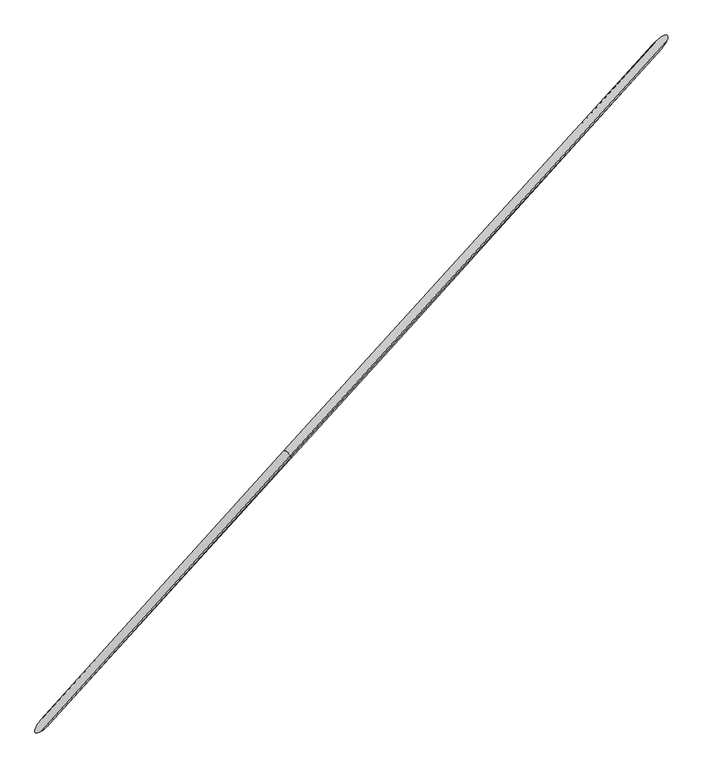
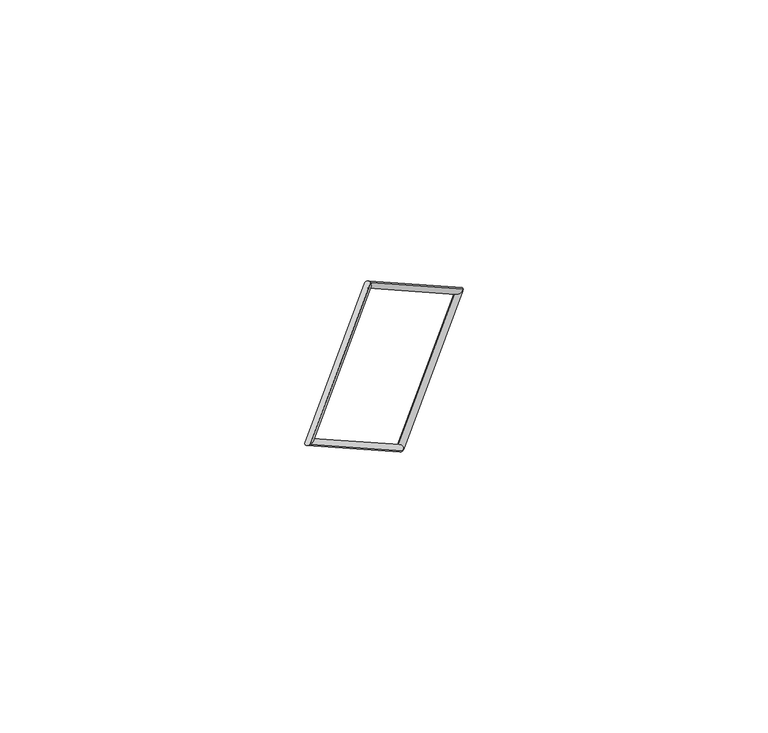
"""IFC4 building model written with IfcOpenShell, lengths in millimetres: proxy geometry, Família5 : Família5."""

from ifc_helpers import new_model, si_unit, frame, origin, place, context, project, spatial, ellipse_curve, source, transform, mapped, element, save
from ifc_brep_helpers import cylinder_surface, advanced_brep


def generic_models_a3b1203c(model_context):
    return source(origin(), model_context, "Body", "AdvancedBrep", [
        advanced_brep(
        [(-1477.841185, -1537.1494351, 27.149246), (-1406.7640906, -1370.8064059, -27.149246), (614.7763613, 867.327666, -27.149246), (669.8289143, 840.6281749, 27.149246), (3755.4127288, 4325.3169073, -3307.2809681), (3914.0022186, 4412.6164826, -3361.1181376), (1733.8722768, 2087.1828354, -3307.2809681), (1766.3321193, 2034.8388726, -3361.1181376)],
        [
            (0, 1, ellipse_curve(frame((-1442.3026378, -1453.9779205, 0.0), z_axis=(0.19921607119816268, 0.22612563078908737, 0.9535093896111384), x_axis=(-0.6400039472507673, -0.7068170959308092, 0.30133791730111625)), 132.7403278, 40.0)),
            (1, 2),
            (2, 3, ellipse_curve(frame((642.3026378, 853.9779205, 0.0), z_axis=(-0.6400039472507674, -0.7068170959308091, 0.30133791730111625), x_axis=(-0.1992160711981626, -0.22612563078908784, -0.9535093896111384)), 41.9499738, 40.0)),
            (3, 0),
            (1, 0, ellipse_curve(frame((-1442.3026378, -1453.9779205, 0.0), z_axis=(0.19921607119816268, 0.22612563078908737, 0.9535093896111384), x_axis=(-0.6400039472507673, -0.7068170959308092, 0.30133791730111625)), 132.7403278, 40.0)),
            (3, 2, ellipse_curve(frame((642.3026378, 853.9779205, 0.0), z_axis=(-0.6400039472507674, -0.7068170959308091, 0.30133791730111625), x_axis=(-0.1992160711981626, -0.22612563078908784, -0.9535093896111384)), 41.9499738, 40.0)),
            (2, 4),
            (4, 5, ellipse_curve(frame((3834.7074737, 4368.9666949, -3334.1995528), z_axis=(0.19921607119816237, 0.22612563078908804, 0.9535093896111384), x_axis=(-0.6400039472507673, -0.706817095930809, 0.30133791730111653)), 132.7403278, 40.0)),
            (5, 3),
            (5, 4, ellipse_curve(frame((3834.7074737, 4368.9666949, -3334.1995528), z_axis=(0.19921607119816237, 0.22612563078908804, 0.9535093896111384), x_axis=(-0.6400039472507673, -0.706817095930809, 0.30133791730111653)), 132.7403278, 40.0)),
            (4, 6),
            (6, 7, ellipse_curve(frame((1750.1021981, 2061.010854, -3334.1995528), z_axis=(0.6400039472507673, 0.7068170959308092, -0.30133791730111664), x_axis=(0.19921607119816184, 0.22612563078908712, 0.9535093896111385)), 41.9499738, 40.0)),
            (7, 5),
            (7, 6, ellipse_curve(frame((1750.1021981, 2061.010854, -3334.1995528), z_axis=(0.6400039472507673, 0.7068170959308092, -0.30133791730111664), x_axis=(0.19921607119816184, 0.22612563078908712, 0.9535093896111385)), 41.9499738, 40.0)),
            (6, 1),
            (0, 7),
        ],
        [
            cylinder_surface(frame((-1442.3026378, -1453.9779205, 0.0), z_axis=(-0.6702862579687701, -0.7421026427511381, 0.0), x_axis=(-0.5036881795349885, 0.45494416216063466, 0.7343868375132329)), 40.0),
            cylinder_surface(frame((642.3026378, 853.9779205, 0.0), z_axis=(-0.5502226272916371, -0.6058211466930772, 0.5746614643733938), x_axis=(-0.21940007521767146, 0.7689104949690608, 0.6005333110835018)), 40.0),
            cylinder_surface(frame((3834.7074737, 4368.9666949, -3334.1995528), z_axis=(0.6702862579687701, 0.7421026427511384, 0.0), x_axis=(-0.49940882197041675, 0.45107893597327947, -0.7396746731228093)), 40.0),
            cylinder_surface(frame((1750.1021981, 2061.010854, -3334.1995528), z_axis=(0.5502226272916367, 0.6058211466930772, -0.5746614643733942), x_axis=(-0.7836969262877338, 0.13711260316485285, -0.605821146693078)), 40.0),
        ],
        [
            (0, [[1, 2, 3, 4]]),
            (0, [[5, -4, 6, -2]]),
            (1, [[-3, 7, 8, 9]]),
            (1, [[-6, -9, 10, -7]]),
            (2, [[-8, 11, 12, 13]]),
            (2, [[-10, -13, 14, -11]]),
            (3, [[-12, 15, -1, 16]]),
            (3, [[-14, -16, -5, -15]]),
        ],
    ),
    ])


if __name__ == "__main__":
    model = new_model("IFC4")
    model_context = context("Model", 3, world=origin())
    ifc_project = project(units=[si_unit("LENGTHUNIT", "METRE", prefix="MILLI")], contexts=[model_context])
    site = spatial("IfcSite", under=ifc_project)
    building = spatial("IfcBuilding", under=site)
    placement = place(None, origin())
    generic_models_shape = generic_models_a3b1203c(model_context)
    element("IfcBuildingElementProxy", 1, Name="Família5 : Família5", ObjectType="Família5 : Família5", at=placement, inside=building, context=model_context, shape_type="MappedRepresentation", body=[
        mapped(generic_models_shape, transform((0.0, 0.0, 0.0), x_axis=(1.0, 0.0, 0.0), y_axis=(0.0, 1.0, 0.0), z_axis=(0.0, 0.0, 1.0))),
    ])
    save(model, "model.ifc")
